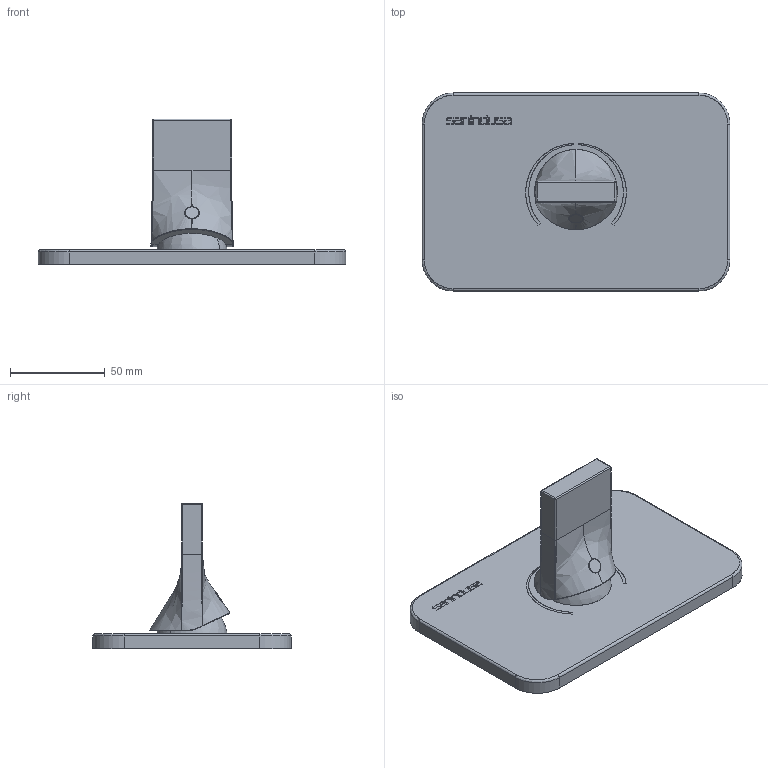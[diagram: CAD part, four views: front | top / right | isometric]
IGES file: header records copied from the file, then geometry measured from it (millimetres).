
Start section: SolidWorks IGES file using NURBS representation for surfaces
Global section: file name: \\IBMGRAU\Projectos\01-TORNEIRAS\LINE 42\5557101 - Mist. encastrar 3 vias\biblioteca 3D\5557101_igs.IGS; native system: SolidWorks 2018; preprocessor: SolidWorks 2018; author: Julio; date: 180919.160133; units: millimetre
Bounding box: 162.6 x 104.6 x 76.98 mm (x, y, z)
Surface area: 44962.3 mm2 (no closed solid volume)
Topology: 0 solids, 0 shells, 231 faces, 2101 edges, 2096 vertices
Faces by surface type: bspline 231
